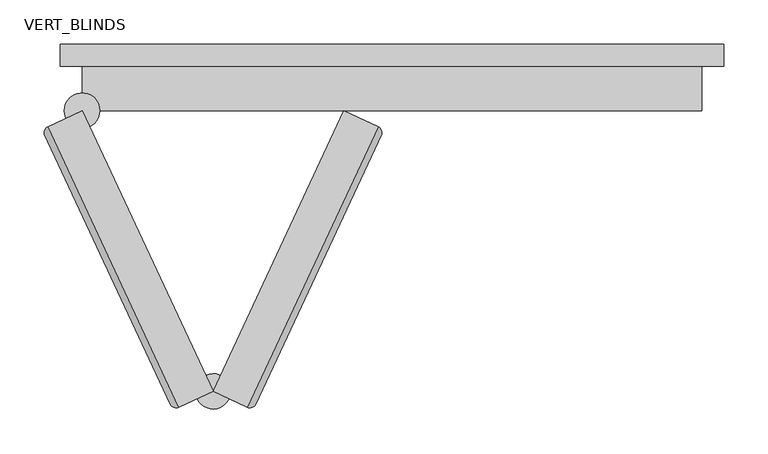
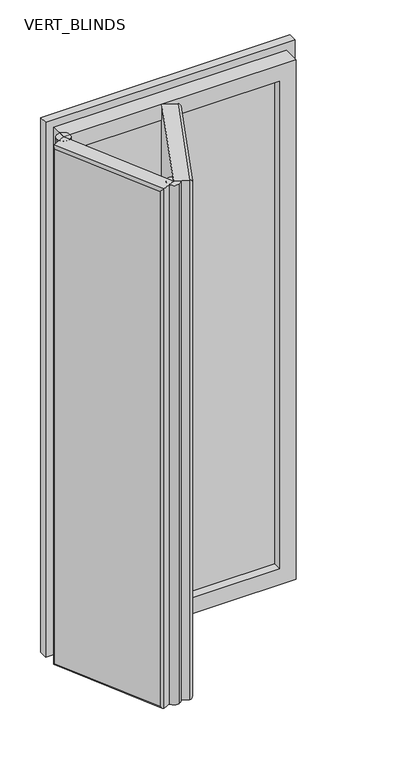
"""IFC4 building model written with IfcOpenShell, lengths in millimetres: plate geometry, CURTAIN PANEL VODA STYLE BIFOLDING : VERT_BLINDS."""

from ifc_helpers import new_model, si_unit, point, frame, frame_2d, origin, place, context, project, spatial, polyline, circle_curve, ellipse_curve, trimmed, segment, composite_curve, outline, extrude, faceted_brep, source, transform, mapped, element, save
from ifc_brep_helpers import plane_surface, cylinder_surface, advanced_brep


def vert_blinds_b0ecc8bd(model_context):
    return source(origin(), model_context, "Body", "SolidModel", [
        advanced_brep(
        [(-350.0, -50.0, 1675.0), (-388.5180809, -67.9612761, 1675.0), (-240.6016893, -385.1690016, 1675.0), (-202.0836084, -367.2077255, 1675.0), (-202.0836084, -367.2077255, 25.0), (-240.6016893, -385.1690016, 25.0), (-388.5180809, -67.9612761, 25.0), (-350.0, -50.0, 25.0), (-392.1457524, -77.9282215, 32.5), (-250.5686347, -381.5413301, 32.5), (-250.5686347, -381.5413301, 1667.5), (-392.1457524, -77.9282215, 1667.5)],
        [
            (0, 1),
            (1, 2),
            (2, 3),
            (3, 0),
            (4, 5),
            (5, 6),
            (6, 7),
            (7, 4),
            (2, 5),
            (4, 3),
            (8, 9),
            (9, 10),
            (10, 11),
            (11, 8),
            (6, 1),
            (0, 7),
            (11, 1, ellipse_curve(frame((-385.348444, -74.7585845, 1667.5), z_axis=(-0.29883623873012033, 0.6408563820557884, -0.7071067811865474), x_axis=(0.2988362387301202, -0.6408563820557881, -0.7071067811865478)), 10.6066017, 7.5)),
            (6, 8, ellipse_curve(frame((-385.348444, -74.7585845, 32.5), z_axis=(-0.2988362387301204, 0.6408563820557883, 0.7071067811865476), x_axis=(-0.29883623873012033, 0.6408563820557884, -0.7071067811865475)), 10.6066017, 7.5)),
            (5, 9, ellipse_curve(frame((-243.7713263, -378.3716932, 32.5), z_axis=(-0.2988362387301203, 0.6408563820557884, -0.7071067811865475), x_axis=(0.29883623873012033, -0.6408563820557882, -0.7071067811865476)), 10.6066017, 7.5)),
            (2, 10, ellipse_curve(frame((-243.7713263, -378.3716932, 1667.5), z_axis=(0.29883623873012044, -0.6408563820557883, -0.7071067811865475), x_axis=(0.29883623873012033, -0.6408563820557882, 0.7071067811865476)), 10.6066017, 7.5)),
        ],
        [
            plane_surface(frame((-247.3989977, -388.3386385, 1675.0), z_axis=(0.0, 0.0, 1.0000000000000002), x_axis=(-0.9063077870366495, -0.42261826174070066, 0.0))),
            plane_surface(frame((-247.3989977, -388.3386385, 25.0), z_axis=(0.0, 0.0, -1.0000000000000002), x_axis=(0.9063077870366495, 0.42261826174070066, 0.0))),
            plane_surface(frame((-202.0836084, -367.2077255, 1675.0), z_axis=(0.42261826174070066, -0.9063077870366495, 0.0), x_axis=(0.0, 0.0, -1.0))),
            plane_surface(frame((-247.3989977, -388.3386385, 1675.0), z_axis=(-0.9063077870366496, -0.4226182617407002, 0.0), x_axis=(0.0, 0.0, -1.0))),
            plane_surface(frame((-395.3153894, -71.1309131, 1675.0), z_axis=(-0.4226182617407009, 0.9063077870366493, 0.0), x_axis=(0.0, 0.0, -1.0))),
            plane_surface(frame((-350.0, -50.0, 1675.0), z_axis=(0.9063077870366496, 0.42261826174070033, 0.0), x_axis=(0.0, 0.0, -1.0))),
            cylinder_surface(frame((-385.348444, -74.7585845, 1675.0), z_axis=(0.0, 0.0, -1.0), x_axis=(0.9063077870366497, 0.42261826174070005, 0.0)), 7.5),
            cylinder_surface(frame((-388.5180809, -67.9612761, 32.5), z_axis=(0.42261826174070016, -0.9063077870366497, 0.0), x_axis=(0.9063077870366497, 0.42261826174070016, 0.0)), 7.5),
            cylinder_surface(frame((-243.7713263, -378.3716932, 25.0), z_axis=(0.0, 0.0, 1.0000000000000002), x_axis=(0.9063077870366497, 0.4226182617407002, 0.0)), 7.5),
            cylinder_surface(frame((-240.6016893, -385.1690016, 1667.5), z_axis=(-0.4226182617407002, 0.9063077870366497, 0.0), x_axis=(0.9063077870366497, 0.4226182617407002, 0.0)), 7.5),
        ],
        [
            (0, [[1, 2, 3, 4]]),
            (1, [[5, 6, 7, 8]]),
            (2, [[-3, 9, -5, 10]]),
            (3, [[11, 12, 13, 14]]),
            (4, [[-7, 15, -1, 16]]),
            (5, [[-10, -8, -16, -4]]),
            (6, [[-14, 17, -15, 18]]),
            (7, [[-6, 19, -11, -18]]),
            (8, [[-9, 20, -12, -19]]),
            (9, [[-13, -20, -2, -17]]),
        ],
    ),
        advanced_brep(
        [(-202.0836084, -367.2077255, 1675.0), (-163.5655274, -385.1690016, 1675.0), (-15.6491358, -67.9612761, 1675.0), (-54.1672168, -50.0, 1675.0), (-54.1672168, -50.0, 25.0), (-15.6491358, -67.9612761, 25.0), (-163.5655274, -385.1690016, 25.0), (-202.0836084, -367.2077255, 25.0), (-153.5985821, -381.5413301, 32.5), (-12.0214644, -77.9282215, 32.5), (-12.0214644, -77.9282215, 1667.5), (-153.5985821, -381.5413301, 1667.5)],
        [
            (0, 1),
            (1, 2),
            (2, 3),
            (3, 0),
            (4, 5),
            (5, 6),
            (6, 7),
            (7, 4),
            (2, 5),
            (4, 3),
            (8, 9),
            (9, 10),
            (10, 11),
            (11, 8),
            (6, 1),
            (0, 7),
            (11, 1, ellipse_curve(frame((-160.3958905, -378.3716932, 1667.5), z_axis=(-0.2988362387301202, -0.6408563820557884, -0.7071067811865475), x_axis=(0.2988362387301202, 0.6408563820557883, -0.7071067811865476)), 10.6066017, 7.5)),
            (6, 8, ellipse_curve(frame((-160.3958905, -378.3716932, 32.5), z_axis=(-0.29883623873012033, -0.6408563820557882, 0.7071067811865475), x_axis=(-0.2988362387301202, -0.6408563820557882, -0.7071067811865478)), 10.6066017, 7.5)),
            (5, 9, ellipse_curve(frame((-18.8187728, -74.7585845, 32.5), z_axis=(-0.29883623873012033, -0.6408563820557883, -0.7071067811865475), x_axis=(0.29883623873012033, 0.6408563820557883, -0.7071067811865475)), 10.6066017, 7.5)),
            (2, 10, ellipse_curve(frame((-18.8187728, -74.7585845, 1667.5), z_axis=(0.2988362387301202, 0.6408563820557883, -0.7071067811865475), x_axis=(0.2988362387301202, 0.6408563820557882, 0.7071067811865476)), 10.6066017, 7.5)),
        ],
        [
            plane_surface(frame((-8.8518274, -71.1309131, 1675.0), z_axis=(0.0, 0.0, 1.0000000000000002), x_axis=(0.9063077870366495, -0.4226182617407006, 0.0))),
            plane_surface(frame((-8.8518274, -71.1309131, 25.0), z_axis=(0.0, 0.0, -1.0000000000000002), x_axis=(-0.9063077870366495, 0.4226182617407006, 0.0))),
            plane_surface(frame((-54.1672168, -50.0, 1675.0), z_axis=(0.4226182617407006, 0.9063077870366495, 0.0), x_axis=(0.0, 0.0, -1.0))),
            plane_surface(frame((-8.8518274, -71.1309131, 1675.0), z_axis=(0.9063077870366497, -0.42261826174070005, 0.0), x_axis=(0.0, 0.0, -1.0))),
            plane_surface(frame((-156.768219, -388.3386385, 1675.0), z_axis=(-0.42261826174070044, -0.9063077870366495, 0.0), x_axis=(0.0, 0.0, -1.0))),
            plane_surface(frame((-202.0836084, -367.2077255, 1675.0), z_axis=(-0.9063077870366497, 0.4226182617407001, 0.0), x_axis=(0.0, 0.0, -1.0))),
            cylinder_surface(frame((-160.3958905, -378.3716932, 1675.0), z_axis=(0.0, 0.0, -1.0), x_axis=(-0.9063077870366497, 0.42261826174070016, 0.0)), 7.5),
            cylinder_surface(frame((-163.5655274, -385.1690016, 32.5), z_axis=(0.42261826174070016, 0.9063077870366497, 0.0), x_axis=(-0.9063077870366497, 0.42261826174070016, 0.0)), 7.5),
            cylinder_surface(frame((-18.8187728, -74.7585845, 25.0), z_axis=(0.0, 0.0, 1.0), x_axis=(-0.9063077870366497, 0.42261826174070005, 0.0)), 7.5),
            cylinder_surface(frame((-15.6491358, -67.9612761, 1667.5), z_axis=(-0.42261826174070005, -0.9063077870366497, 0.0), x_axis=(-0.9063077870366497, 0.42261826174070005, 0.0)), 7.5),
        ],
        [
            (0, [[1, 2, 3, 4]]),
            (1, [[5, 6, 7, 8]]),
            (2, [[-3, 9, -5, 10]]),
            (3, [[11, 12, 13, 14]]),
            (4, [[-7, 15, -1, 16]]),
            (5, [[-10, -8, -16, -4]]),
            (6, [[-14, 17, -15, 18]]),
            (7, [[-6, 19, -11, -18]]),
            (8, [[-9, 20, -12, -19]]),
            (9, [[-13, -20, -2, -17]]),
        ],
    ),
        extrude(outline(composite_curve([segment(trimmed(circle_curve(frame_2d((-350.0, -50.0)), 20.0), [point((-370.0, -50.0))], [point((-330.0, -50.0))], False, "CARTESIAN"), True, "CONTINUOUS"), segment(trimmed(circle_curve(frame_2d((-350.0, -50.0)), 20.0), [point((-330.0, -50.0))], [point((-370.0, -50.0))], False, "CARTESIAN"), True, "CONTINUOUS")], self_intersect=False)), frame((0.0, 0.0, 25.0), z_axis=(0.0, 0.0, 1.0), x_axis=(1.0, 0.0, 0.0)), (0.0, 0.0, 1.0), 1650.0),
        extrude(outline(composite_curve([segment(trimmed(circle_curve(frame_2d((-202.0836084, -367.2077255)), 20.0), [point((-210.5359736, -349.0815697))], [point((-193.6312432, -385.3338812))], False, "CARTESIAN"), True, "CONTINUOUS"), segment(trimmed(circle_curve(frame_2d((-202.0836084, -367.2077255)), 20.0), [point((-193.6312432, -385.3338812))], [point((-210.5359736, -349.0815697))], False, "CARTESIAN"), True, "CONTINUOUS")], self_intersect=False)), frame((0.0, 0.0, 25.0), z_axis=(0.0, 0.0, 1.0), x_axis=(1.0, 0.0, 0.0)), (0.0, 0.0, 1.0), 1650.0),
        extrude(outline(polyline([(-300.0, -24.0), (-300.0, 0.0), (300.0, 0.0), (300.0, -24.0), (-300.0, -24.0)])), frame((0.0, 0.0, 75.0), z_axis=(0.0, 0.0, 1.0), x_axis=(1.0, 0.0, 0.0)), (0.0, 0.0, 1.0), 1550.0),
        faceted_brep([(-300.0, -50.0, 1625.0), (-300.0, -50.0, 75.0), (-300.0, 25.0, 75.0), (-300.0, 25.0, 1625.0), (-375.0, 25.0, 1700.0), (-375.0, 25.0, 0.0), (-375.0, 0.0, 0.0), (-375.0, 0.0, 1700.0), (-350.0, 0.0, 1675.0), (-350.0, 0.0, 25.0), (-350.0, -50.0, 25.0), (-350.0, -50.0, 1675.0), (300.0, -50.0, 75.0), (300.0, 25.0, 75.0), (375.0, 25.0, 0.0), (375.0, 0.0, 0.0), (350.0, 0.0, 25.0), (350.0, -50.0, 25.0), (300.0, -50.0, 1625.0), (300.0, 25.0, 1625.0), (375.0, 25.0, 1700.0), (375.0, 0.0, 1700.0), (350.0, 0.0, 1675.0), (350.0, -50.0, 1675.0)], [[[0, 1, 2, 3]], [[4, 5, 6, 7]], [[8, 9, 10, 11]], [[1, 12, 13, 2]], [[5, 14, 15, 6]], [[9, 16, 17, 10]], [[12, 18, 19, 13]], [[14, 20, 21, 15]], [[16, 22, 23, 17]], [[11, 10, 17, 23], [1, 0, 18, 12]], [[18, 0, 3, 19]], [[5, 4, 20, 14], [3, 2, 13, 19]], [[20, 4, 7, 21]], [[7, 6, 15, 21], [9, 8, 22, 16]], [[22, 8, 11, 23]]]),
    ])


if __name__ == "__main__":
    model = new_model("IFC4")
    model_context = context("Model", 3, world=origin())
    ifc_project = project(units=[si_unit("LENGTHUNIT", "METRE", prefix="MILLI")], contexts=[model_context])
    site = spatial("IfcSite", under=ifc_project)
    building = spatial("IfcBuilding", under=site)
    placement = place(None, origin())
    vert_blinds_shape = vert_blinds_b0ecc8bd(model_context)
    element("IfcPlate", 1, ObjectType="CURTAIN PANEL VODA STYLE BIFOLDING : VERT_BLINDS", at=placement, inside=building, context=model_context, shape_type="MappedRepresentation", body=[
        mapped(vert_blinds_shape, transform((0.0, 0.0, 0.0), x_axis=(1.0, 0.0, 0.0), y_axis=(0.0, 1.0, 0.0), z_axis=(0.0, 0.0, 1.0))),
    ])
    save(model, "model.ifc")
